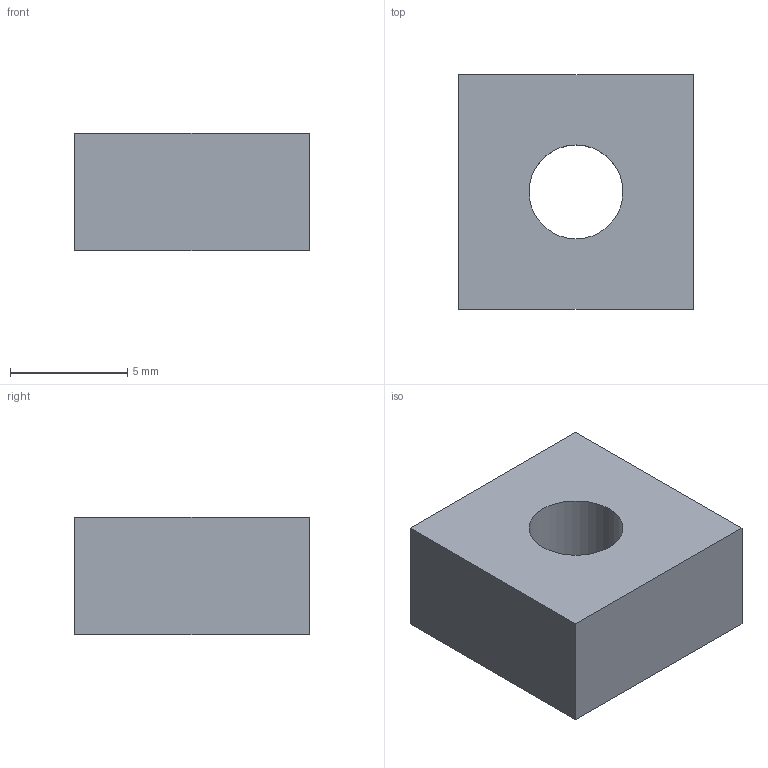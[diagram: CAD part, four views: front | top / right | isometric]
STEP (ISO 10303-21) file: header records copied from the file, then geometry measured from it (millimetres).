
FILE_DESCRIPTION( ( 'STEP AP203' ), '1' );
FILE_NAME( 'C:/NSM-06-4.stp', '2013-10-20T23:51:58', ( ' ' ), ( ' ' ), 'XStep 1.0', ' ', ' ' );
FILE_SCHEMA( ( 'CONFIG_CONTROL_DESIGN' ) );
Length unit declared in the file: metre
Products named in the file (1): 1
Bounding box: 10 x 10 x 5 mm (x, y, z)
Volume: 436.7 mm3; surface area: 437.9 mm2
Topology: 1 solids, 1 shells, 7 faces, 15 edges, 10 vertices
Faces by surface type: bspline 7
Entity records: 243 total; most frequent: CARTESIAN_POINT 63, ORIENTED_EDGE 28, DIRECTION 18, EDGE_CURVE 14, LINE 12, VECTOR 12, EDGE_LOOP 10, VERTEX_POINT 10
